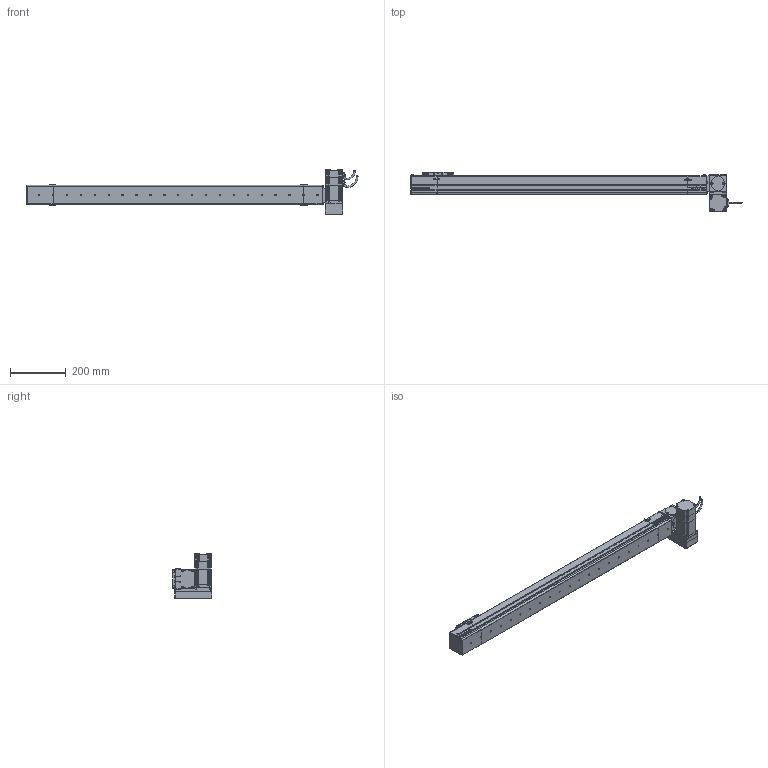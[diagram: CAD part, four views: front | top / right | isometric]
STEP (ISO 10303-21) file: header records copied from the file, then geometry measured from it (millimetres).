
FILE_DESCRIPTION (( 'STEP AP214' ), '1' );
FILE_NAME ('S07 CBN RU S900.STEP', '2010-06-29T10:12:48', ( 'Conseil Régional Haute-Normandie' ), ( 'Conseil Régional Haute-Normandie' ), 'SwSTEP 2.0', 'SolidWorks 2010', '' );
FILE_SCHEMA (( 'AUTOMOTIVE_DESIGN' ));
Length unit declared in the file: millimetre
Products named in the file (31): chariot_Default; Chariot S07_Default; plaque de serrage Tail_Default; Plaque de bout Tail_Default; vis M5 L15_Default; Couvercle Tail_Default; Corp Tail_Default; Tail S07 Tail_Default; VisM3_Default; Conecteur2 60BLDC_Default; Conecteur 60BLDC_Default; Couvercle S07 S900_Default; Corp S07 S900_Default; Axe 60BLDC_Default; support chariot_Default; vis M5 L8_Default; Head RU_Default; S07 CBN RU S900; Plaque de bout RU_Default; Couvercle RU_Default; Corp RU_Default; Support Moteur RU_Default; Rondelle de Serrage RU_Default; plaque de serrage RU_Default; P1_Default; 60BLDC90A-640_Default; Cache Support Moteur RU_Default; P4_Default; P3 90A_Default; P2 90A_Default
Assembly tree (71 placements, depth 4):
  S07 CBN RU S900
    Corp S07 S900_Default
      Corp S07 S900_Default
      Couvercle S07 S900_Default
    Head RU_Default
      vis M5 L15_Default  x16
      60BLDC90A-640_Default
        VisM3_Default  x12
        Conecteur 60BLDC_Default
        P4_Default
        Axe 60BLDC_Default
        P2 90A_Default
        Conecteur2 60BLDC_Default
        P3 90A_Default
        P1_Default
      plaque de serrage RU_Default
      Rondelle de Serrage RU_Default  x3
      Couvercle RU_Default
      Support Moteur RU_Default
      Cache Support Moteur RU_Default
      Plaque de bout RU_Default
      Corp RU_Default
    Tail S07 Tail_Default
      vis M5 L15_Default  x6
      Couvercle Tail_Default
      Corp Tail_Default
      plaque de serrage Tail_Default
      Plaque de bout Tail_Default
    Chariot S07_Default
      vis M5 L8_Default  x8
      support chariot_Default
      chariot_Default
Bounding box: 1193.2 x 142 x 162 mm (x, y, z)
Volume: 5652271.8 mm3; surface area: 718981 mm2
Topology: 108 solids, 108 shells, 3904 faces, 9614 edges, 6188 vertices
Faces by surface type: plane 2254, bspline 756, cylinder 683, torus 112, cone 95, sphere 4
Entity records: 153673 total; most frequent: CARTESIAN_POINT 79643, ORIENTED_EDGE 14748, DIRECTION 11027, EDGE_CURVE 7374, VERTEX_POINT 4873, VECTOR 4781, LINE 4781, EDGE_LOOP 3165
